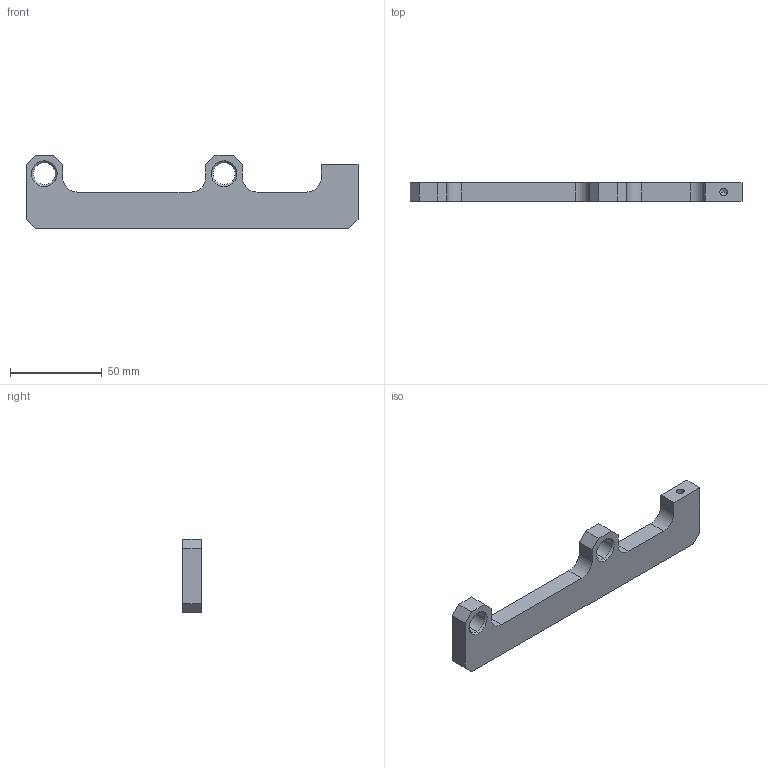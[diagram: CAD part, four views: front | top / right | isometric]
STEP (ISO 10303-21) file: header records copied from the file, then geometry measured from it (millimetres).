
FILE_DESCRIPTION (( 'STEP AP214' ), '1' );
FILE_NAME ('アーム.STEP', '2025-04-18T02:00:11', ( '' ), ( '' ), 'SwSTEP 2.0', 'SolidWorks 2023', '' );
FILE_SCHEMA (( 'AUTOMOTIVE_DESIGN' ));
Length unit declared in the file: millimetre
Products named in the file (1): アーム
Bounding box: 181 x 10 x 40 mm (x, y, z)
Volume: 44444.2 mm3; surface area: 14625.5 mm2
Topology: 1 solids, 1 shells, 40 faces, 104 edges, 65 vertices
Faces by surface type: plane 20, cylinder 10, cone 10
Entity records: 1255 total; most frequent: DIRECTION 212, CARTESIAN_POINT 208, ORIENTED_EDGE 204, EDGE_CURVE 102, LINE 74, VECTOR 74, AXIS2_PLACEMENT_3D 69, VERTEX_POINT 65
